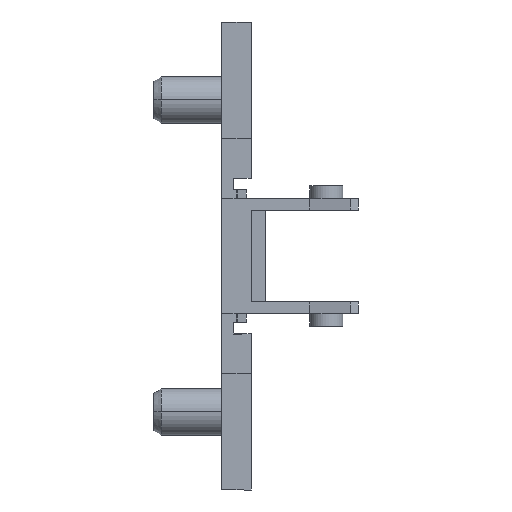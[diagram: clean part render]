
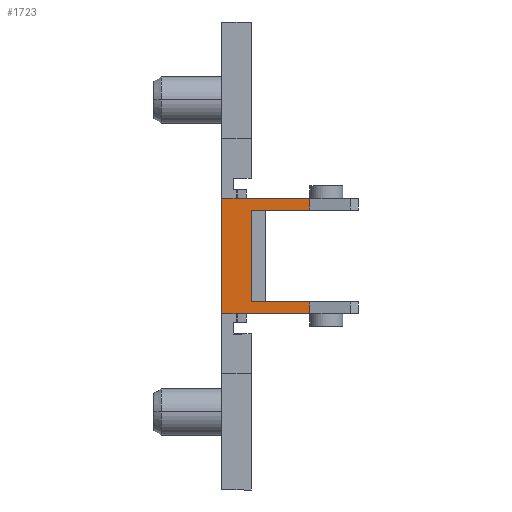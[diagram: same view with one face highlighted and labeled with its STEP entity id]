
A CAD part, front view. The second image highlights one B-rep face of the part: STEP entity #1723.
In plain terms, the highlighted planar face has unit normal (0, -1, 0).
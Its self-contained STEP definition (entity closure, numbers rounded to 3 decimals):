
#93 = VERTEX_POINT ( 'NONE', #3399 ) ;
#94 = VERTEX_POINT ( 'NONE', #3360 ) ;
#95 = VERTEX_POINT ( 'NONE', #3393 ) ;
#96 = VERTEX_POINT ( 'NONE', #3373 ) ;
#97 = VERTEX_POINT ( 'NONE', #3391 ) ;
#98 = VERTEX_POINT ( 'NONE', #3390 ) ;
#99 = VERTEX_POINT ( 'NONE', #3384 ) ;
#100 = VERTEX_POINT ( 'NONE', #3396 ) ;
#261 = FACE_OUTER_BOUND ( 'NONE', #1130, .T. ) ;
#438 = ORIENTED_EDGE ( 'NONE', *, *, #4157, .F. ) ;
#439 = ORIENTED_EDGE ( 'NONE', *, *, #4079, .T. ) ;
#440 = ORIENTED_EDGE ( 'NONE', *, *, #4227, .F. ) ;
#441 = ORIENTED_EDGE ( 'NONE', *, *, #4095, .T. ) ;
#442 = ORIENTED_EDGE ( 'NONE', *, *, #4210, .T. ) ;
#443 = ORIENTED_EDGE ( 'NONE', *, *, #4022, .T. ) ;
#444 = ORIENTED_EDGE ( 'NONE', *, *, #3692, .F. ) ;
#445 = ORIENTED_EDGE ( 'NONE', *, *, #3718, .F. ) ;
#1130 = EDGE_LOOP ( 'NONE', ( #438, #439, #440, #441, #442, #443, #444, #445 ) ) ;
#1378 = LINE ( 'NONE', #3117, #1379 ) ;
#1379 = VECTOR ( 'NONE', #3118, 1000. ) ;
#1437 = LINE ( 'NONE', #3205, #1438 ) ;
#1438 = VECTOR ( 'NONE', #3206, 1000. ) ;
#1447 = LINE ( 'NONE', #3226, #1450 ) ;
#1450 = VECTOR ( 'NONE', #3227, 1000. ) ;
#1524 = LINE ( 'NONE', #1867, #1525 ) ;
#1525 = VECTOR ( 'NONE', #1868, 1000. ) ;
#1578 = LINE ( 'NONE', #1911, #1580 ) ;
#1580 = VECTOR ( 'NONE', #1944, 1000. ) ;
#1597 = LINE ( 'NONE', #1964, #1598 ) ;
#1598 = VECTOR ( 'NONE', #1965, 1000. ) ;
#1723 = ADVANCED_FACE ( 'NONE', ( #261 ), #2150, .T. ) ;
#1867 = CARTESIAN_POINT ( 'NONE',  ( 3., -16.55, -5.9 ) ) ;
#1868 = DIRECTION ( 'NONE',  ( 0., 0., -1. ) ) ;
#1911 = CARTESIAN_POINT ( 'NONE',  ( 0., -16.55, 15.37 ) ) ;
#1944 = DIRECTION ( 'NONE',  ( 0., 0., -1. ) ) ;
#1964 = CARTESIAN_POINT ( 'NONE',  ( 9.023, -16.55, 67.733 ) ) ;
#1965 = DIRECTION ( 'NONE',  ( 0., 0., -1. ) ) ;
#2150 = PLANE ( 'NONE',  #4006 ) ;
#2153 = CARTESIAN_POINT ( 'NONE',  ( 14., -16.55, -5.9 ) ) ;
#2159 = DIRECTION ( 'NONE',  ( 0., -1., 0. ) ) ;
#2160 = DIRECTION ( 'NONE',  ( -1., 0., 0. ) ) ;
#2592 = CARTESIAN_POINT ( 'NONE',  ( 9.023, -16.55, 67.733 ) ) ;
#2608 = DIRECTION ( 'NONE',  ( 0., 0., -1. ) ) ;
#2647 = CARTESIAN_POINT ( 'NONE',  ( 14., -16.55, -4.7 ) ) ;
#2650 = DIRECTION ( 'NONE',  ( 1., 0., 0. ) ) ;
#3117 = CARTESIAN_POINT ( 'NONE',  ( 1.5, -16.55, -5.9 ) ) ;
#3118 = DIRECTION ( 'NONE',  ( 1., 0., 0. ) ) ;
#3205 = CARTESIAN_POINT ( 'NONE',  ( 14., -16.55, 4.7 ) ) ;
#3206 = DIRECTION ( 'NONE',  ( 1., 0., 0. ) ) ;
#3226 = CARTESIAN_POINT ( 'NONE',  ( 14., -16.55, 5.9 ) ) ;
#3227 = DIRECTION ( 'NONE',  ( -1., 0., 0. ) ) ;
#3360 = CARTESIAN_POINT ( 'NONE',  ( 3., -16.55, -4.7 ) ) ;
#3373 = CARTESIAN_POINT ( 'NONE',  ( 9.023, -16.55, 5.9 ) ) ;
#3384 = CARTESIAN_POINT ( 'NONE',  ( 9.023, -16.55, -5.9 ) ) ;
#3390 = CARTESIAN_POINT ( 'NONE',  ( 0., -16.55, -5.9 ) ) ;
#3391 = CARTESIAN_POINT ( 'NONE',  ( 0., -16.55, 5.9 ) ) ;
#3393 = CARTESIAN_POINT ( 'NONE',  ( 9.023, -16.55, 4.7 ) ) ;
#3396 = CARTESIAN_POINT ( 'NONE',  ( 9.023, -16.55, -4.7 ) ) ;
#3399 = CARTESIAN_POINT ( 'NONE',  ( 3., -16.55, 4.7 ) ) ;
#3692 = EDGE_CURVE ( 'NONE', #100, #99, #4373, .T. ) ;
#3718 = EDGE_CURVE ( 'NONE', #94, #100, #4389, .T. ) ;
#4006 = AXIS2_PLACEMENT_3D ( 'NONE', #2153, #2159, #2160 ) ;
#4022 = EDGE_CURVE ( 'NONE', #98, #99, #1378, .T. ) ;
#4079 = EDGE_CURVE ( 'NONE', #93, #95, #1437, .T. ) ;
#4095 = EDGE_CURVE ( 'NONE', #96, #97, #1447, .T. ) ;
#4157 = EDGE_CURVE ( 'NONE', #93, #94, #1524, .T. ) ;
#4210 = EDGE_CURVE ( 'NONE', #97, #98, #1578, .T. ) ;
#4227 = EDGE_CURVE ( 'NONE', #96, #95, #1597, .T. ) ;
#4314 = VECTOR ( 'NONE', #2650, 1000. ) ;
#4341 = VECTOR ( 'NONE', #2608, 1000. ) ;
#4373 = LINE ( 'NONE', #2592, #4341 ) ;
#4389 = LINE ( 'NONE', #2647, #4314 ) ;
